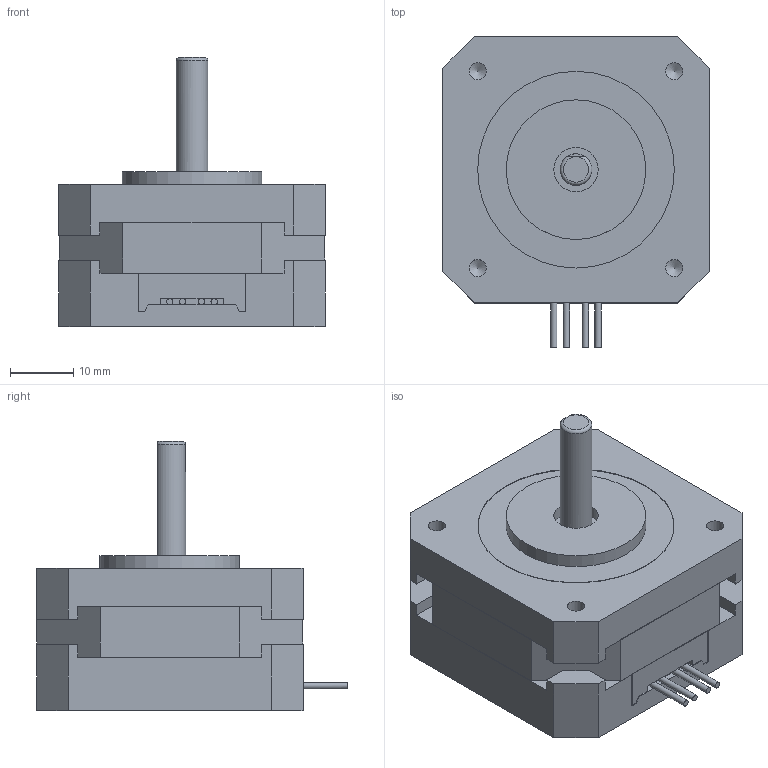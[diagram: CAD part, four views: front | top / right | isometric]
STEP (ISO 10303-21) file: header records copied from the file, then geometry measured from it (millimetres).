
FILE_DESCRIPTION(/* description */ (''),/* implementation_level */ '2;1');
FILE_NAME(/* name */ 'STP-42D0024.stp',/* time_stamp */ '2018-08-13T09:04:52+08:00',/* author */ (''),/* organization */ (''),/* preprocessor_version */ 'ST-DEVELOPER v11',/* originating_system */ 'SIEMENS UGS NX 6.0',/* authorisation */ '');
FILE_SCHEMA (('CONFIG_CONTROL_DESIGN'));
Length unit declared in the file: millimetre
Products named in the file (1): STP-42D0024
Bounding box: 42 x 49 x 42.4 mm (x, y, z)
Volume: 38362.8 mm3; surface area: 8300.5 mm2
Topology: 1 solids, 1 shells, 179 faces, 490 edges, 327 vertices
Faces by surface type: plane 152, cylinder 18, cone 8, torus 1
Full cylindrical faces by diameter (mm): 1.001 x1, 1.003 x1, 1.006 x1, 1.007 x1, 2.7 x4, 4.414 x4, 5 x2, 7 x2, 22 x1, 31 x1
Entity records: 5395 total; most frequent: CARTESIAN_POINT 967, ORIENTED_EDGE 886, DIRECTION 839, EDGE_CURVE 443, LINE 387, VECTOR 387, VERTEX_POINT 310, AXIS2_PLACEMENT_3D 226
